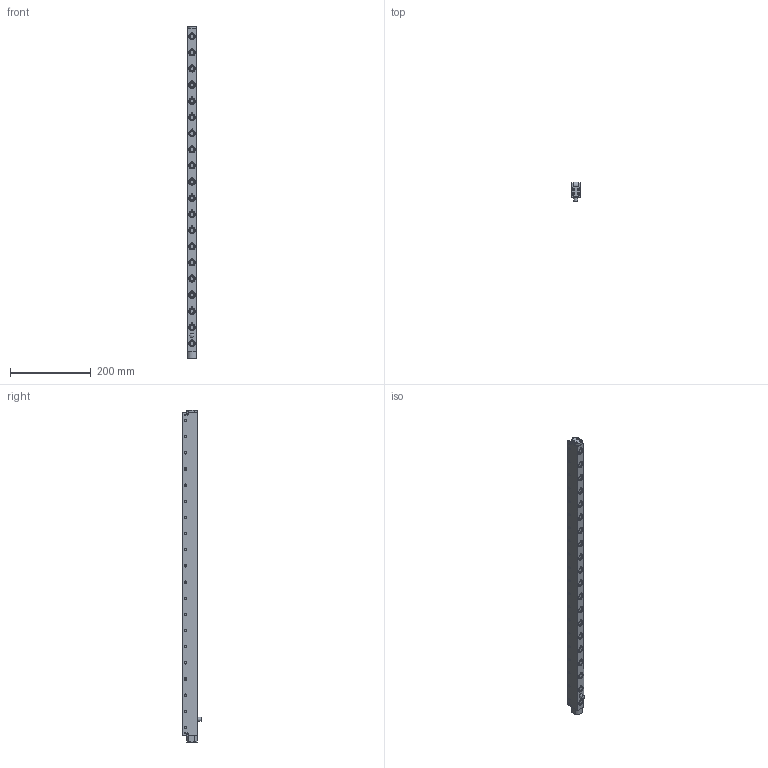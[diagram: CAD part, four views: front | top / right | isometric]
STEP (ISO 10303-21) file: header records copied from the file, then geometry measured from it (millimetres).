
FILE_DESCRIPTION(/* description */ (''),/* implementation_level */ '2;1');
FILE_NAME(/* name */ 'S:\EASCN Vault\Designs\Standard Part\DIE LIFTERS\EHR\EHR- 3D step\EHR22 - 3D step complete serie\EHR22-20.stp',/* time_stamp */ '2019-07-30T16:25:44+08:00',/* author */ ('yue.yang'),/* organization */ (''),/* preprocessor_version */ 'ST-DEVELOPER v17',/* originating_system */ 'Autodesk Inventor 2019',/* authorisation */ '');
FILE_SCHEMA (('AUTOMOTIVE_DESIGN { 1 0 10303 214 3 1 1 }'));
Length unit declared in the file: millimetre
Products named in the file (1): EHR22-20_Shrinkwrap_1
Bounding box: 21.8 x 48.05 x 822 mm (x, y, z)
Volume: 499157.8 mm3; surface area: 191659.9 mm2
Topology: 10 solids, 10 shells, 1189 faces, 3540 edges, 2440 vertices
Faces by surface type: cylinder 403, plane 316, cone 228, torus 201, sphere 41
Full cylindrical faces by diameter (mm): 3 x9, 3.2 x8, 4 x8, 5 x80, 6 x29, 8.566 x1, 10 x3, 11 x20, 12.5 x40, 13.4 x20, 13.8 x20, 15.95 x40, 16 x41
Entity records: 44976 total; most frequent: CARTESIAN_POINT 10084, DIRECTION 7748, ORIENTED_EDGE 7024, EDGE_CURVE 3512, AXIS2_PLACEMENT_3D 3442, VERTEX_POINT 2440, CIRCLE 2252, EDGE_LOOP 1440
